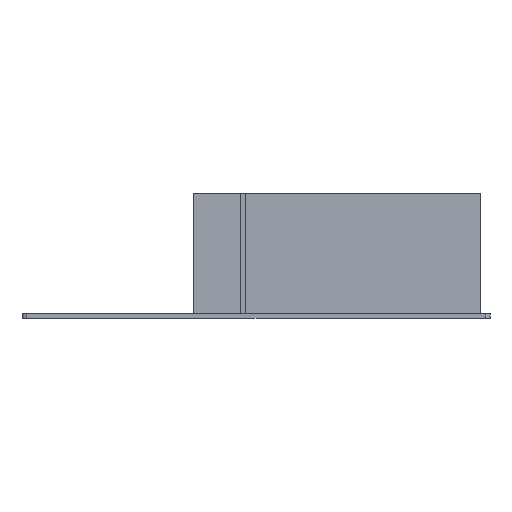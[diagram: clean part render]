
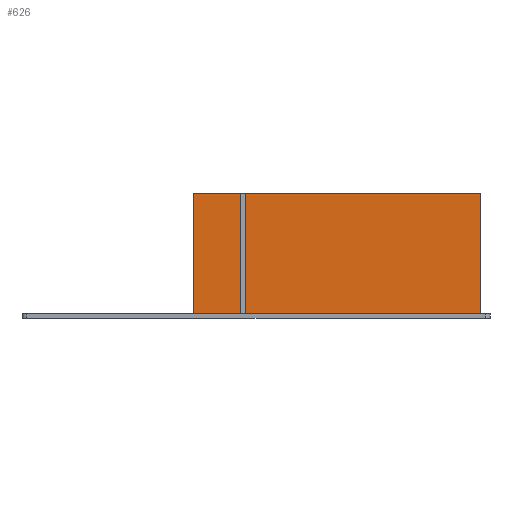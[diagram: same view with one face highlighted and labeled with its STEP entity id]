
A CAD part, front view. The second image highlights one B-rep face of the part: STEP entity #626.
In plain terms, the highlighted planar face has unit normal (0, -1, 0).
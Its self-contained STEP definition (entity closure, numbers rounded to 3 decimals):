
#48 = CARTESIAN_POINT ( 'NONE',  ( 143.997, -41.037, 82. ) ) ;
#70 = CARTESIAN_POINT ( 'NONE',  ( -40., -41.037, 82. ) ) ;
#125 = ORIENTED_EDGE ( 'NONE', *, *, #1025, .T. ) ;
#149 = VECTOR ( 'NONE', #231, 1000. ) ;
#204 = DIRECTION ( 'NONE',  ( -1., 0., 0. ) ) ;
#206 = FACE_OUTER_BOUND ( 'NONE', #877, .T. ) ;
#215 = CARTESIAN_POINT ( 'NONE',  ( -40., -41.037, 82. ) ) ;
#223 = CARTESIAN_POINT ( 'NONE',  ( 0., -41.037, 5. ) ) ;
#231 = DIRECTION ( 'NONE',  ( 0., 0., -1. ) ) ;
#282 = LINE ( 'NONE', #447, #1007 ) ;
#298 = LINE ( 'NONE', #48, #522 ) ;
#435 = CARTESIAN_POINT ( 'NONE',  ( -40., -41.037, 5. ) ) ;
#447 = CARTESIAN_POINT ( 'NONE',  ( 0., -41.037, 82. ) ) ;
#466 = CARTESIAN_POINT ( 'NONE',  ( 143.997, -41.037, 5. ) ) ;
#473 = ORIENTED_EDGE ( 'NONE', *, *, #782, .F. ) ;
#517 = AXIS2_PLACEMENT_3D ( 'NONE', #1015, #675, #841 ) ;
#522 = VECTOR ( 'NONE', #617, 1000. ) ;
#526 = PLANE ( 'NONE',  #517 ) ;
#617 = DIRECTION ( 'NONE',  ( 0., 0., -1. ) ) ;
#621 = LINE ( 'NONE', #223, #709 ) ;
#626 = ADVANCED_FACE ( 'NONE', ( #206 ), #526, .T. ) ;
#631 = VERTEX_POINT ( 'NONE', #435 ) ;
#664 = EDGE_CURVE ( 'NONE', #786, #631, #1031, .T. ) ;
#675 = DIRECTION ( 'NONE',  ( 0., -1., 0. ) ) ;
#682 = VERTEX_POINT ( 'NONE', #466 ) ;
#688 = ORIENTED_EDGE ( 'NONE', *, *, #991, .F. ) ;
#709 = VECTOR ( 'NONE', #934, 1000. ) ;
#780 = CARTESIAN_POINT ( 'NONE',  ( 143.997, -41.037, 82. ) ) ;
#781 = VERTEX_POINT ( 'NONE', #780 ) ;
#782 = EDGE_CURVE ( 'NONE', #682, #631, #621, .T. ) ;
#786 = VERTEX_POINT ( 'NONE', #215 ) ;
#841 = DIRECTION ( 'NONE',  ( 0., 0., -1. ) ) ;
#877 = EDGE_LOOP ( 'NONE', ( #473, #688, #125, #947 ) ) ;
#934 = DIRECTION ( 'NONE',  ( -1., 0., 0. ) ) ;
#947 = ORIENTED_EDGE ( 'NONE', *, *, #664, .T. ) ;
#991 = EDGE_CURVE ( 'NONE', #781, #682, #298, .T. ) ;
#1007 = VECTOR ( 'NONE', #204, 1000. ) ;
#1015 = CARTESIAN_POINT ( 'NONE',  ( 0., -41.037, 82. ) ) ;
#1025 = EDGE_CURVE ( 'NONE', #781, #786, #282, .T. ) ;
#1031 = LINE ( 'NONE', #70, #149 ) ;
